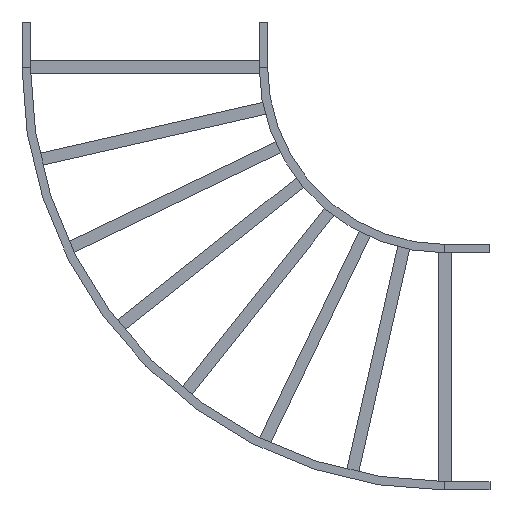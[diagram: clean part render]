
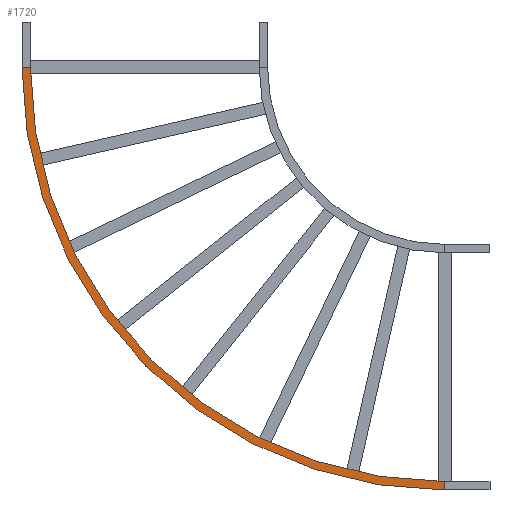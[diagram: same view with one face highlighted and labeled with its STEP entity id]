
A CAD part, front view. The second image highlights one B-rep face of the part: STEP entity #1720.
In plain terms, the highlighted planar face has unit normal (0, -1, 0).
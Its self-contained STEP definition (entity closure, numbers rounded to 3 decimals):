
#5 = EDGE_CURVE ( 'NONE', #2509, #1712, #860, .T. ) ;
#137 = FACE_OUTER_BOUND ( 'NONE', #1358, .T. ) ;
#141 = CARTESIAN_POINT ( 'NONE',  ( 28., 0., -150. ) ) ;
#166 = CARTESIAN_POINT ( 'NONE',  ( 28., 0., -150. ) ) ;
#266 = EDGE_CURVE ( 'NONE', #1224, #1712, #609, .T. ) ;
#288 = CARTESIAN_POINT ( 'NONE',  ( 1409., 0., -1559. ) ) ;
#321 = VECTOR ( 'NONE', #2806, 1000. ) ;
#512 = CARTESIAN_POINT ( 'NONE',  ( 1409., 0., -150. ) ) ;
#609 = CIRCLE ( 'NONE', #3439, 1381. ) ;
#705 = CIRCLE ( 'NONE', #816, 1409. ) ;
#747 = DIRECTION ( 'NONE',  ( -1., 0., 0. ) ) ;
#816 = AXIS2_PLACEMENT_3D ( 'NONE', #512, #2378, #3171 ) ;
#860 = LINE ( 'NONE', #2214, #2873 ) ;
#863 = ORIENTED_EDGE ( 'NONE', *, *, #5, .T. ) ;
#1204 = DIRECTION ( 'NONE',  ( 0., 1., 0. ) ) ;
#1224 = VERTEX_POINT ( 'NONE', #141 ) ;
#1358 = EDGE_LOOP ( 'NONE', ( #2723, #2399, #2466, #863 ) ) ;
#1490 = AXIS2_PLACEMENT_3D ( 'NONE', #2018, #1204, #2001 ) ;
#1712 = VERTEX_POINT ( 'NONE', #3331 ) ;
#1720 = ADVANCED_FACE ( 'NONE', ( #137 ), #2852, .F. ) ;
#1899 = VERTEX_POINT ( 'NONE', #2675 ) ;
#2001 = DIRECTION ( 'NONE',  ( 0., 0., 1. ) ) ;
#2018 = CARTESIAN_POINT ( 'NONE',  ( 28., 0., -150. ) ) ;
#2080 = DIRECTION ( 'NONE',  ( 0., -1., 0. ) ) ;
#2214 = CARTESIAN_POINT ( 'NONE',  ( 1409., 0., -1531. ) ) ;
#2246 = DIRECTION ( 'NONE',  ( 0., 0., 1. ) ) ;
#2378 = DIRECTION ( 'NONE',  ( 0., -1., 0. ) ) ;
#2399 = ORIENTED_EDGE ( 'NONE', *, *, #2775, .F. ) ;
#2466 = ORIENTED_EDGE ( 'NONE', *, *, #3320, .T. ) ;
#2509 = VERTEX_POINT ( 'NONE', #288 ) ;
#2675 = CARTESIAN_POINT ( 'NONE',  ( 0., 0., -150. ) ) ;
#2723 = ORIENTED_EDGE ( 'NONE', *, *, #266, .F. ) ;
#2775 = EDGE_CURVE ( 'NONE', #1899, #1224, #3370, .T. ) ;
#2806 = DIRECTION ( 'NONE',  ( 1., 0., 0. ) ) ;
#2852 = PLANE ( 'NONE',  #1490 ) ;
#2873 = VECTOR ( 'NONE', #2246, 1000. ) ;
#3130 = CARTESIAN_POINT ( 'NONE',  ( 1409., 0., -150. ) ) ;
#3171 = DIRECTION ( 'NONE',  ( -1., 0., 0. ) ) ;
#3320 = EDGE_CURVE ( 'NONE', #1899, #2509, #705, .T. ) ;
#3331 = CARTESIAN_POINT ( 'NONE',  ( 1409., 0., -1531. ) ) ;
#3370 = LINE ( 'NONE', #166, #321 ) ;
#3439 = AXIS2_PLACEMENT_3D ( 'NONE', #3130, #2080, #747 ) ;
